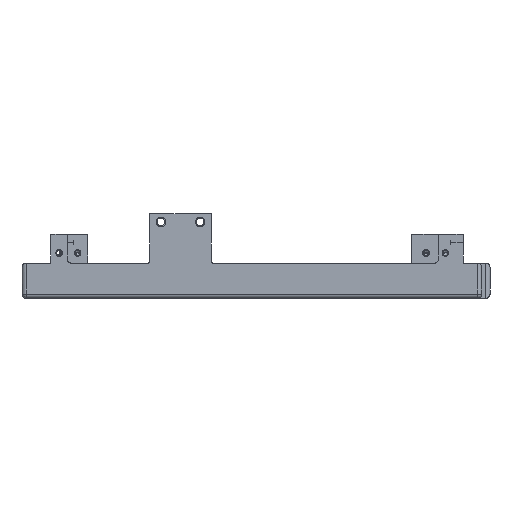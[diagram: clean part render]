
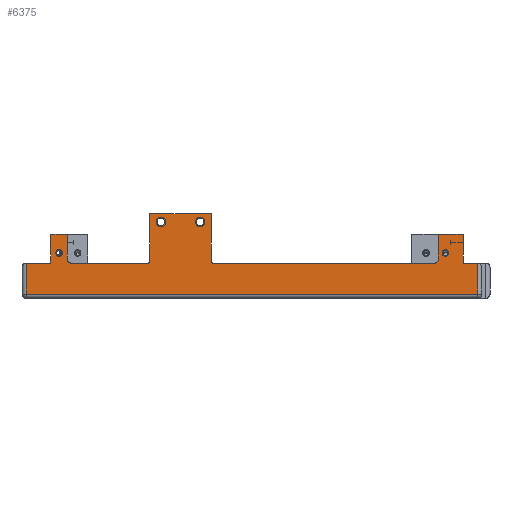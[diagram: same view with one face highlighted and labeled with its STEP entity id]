
A CAD part, left-side view. The second image highlights one B-rep face of the part: STEP entity #6375.
In plain terms, the highlighted planar face has unit normal (-1, 0, 0).
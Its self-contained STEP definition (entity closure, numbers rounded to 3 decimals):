
#1096=DIRECTION('',(0.,-1.,0.));
#1097=VECTOR('',#1096,18.5);
#1098=CARTESIAN_POINT('',(-50.,44.75,8.5));
#1099=LINE('',#1098,#1097);
#1120=DIRECTION('',(0.,-1.,0.));
#1121=VECTOR('',#1120,6.);
#1122=CARTESIAN_POINT('',(-50.,55.75,8.5));
#1123=LINE('',#1122,#1121);
#1152=DIRECTION('',(0.,-1.,0.));
#1153=VECTOR('',#1152,3.5);
#1154=CARTESIAN_POINT('',(-50.,-50.25,8.5));
#1155=LINE('',#1154,#1153);
#1168=DIRECTION('',(0.,-1.,0.));
#1169=VECTOR('',#1168,53.6);
#1170=CARTESIAN_POINT('',(-50.,10.35,8.5));
#1171=LINE('',#1170,#1169);
#1503=DIRECTION('',(0.,-1.,0.));
#1504=VECTOR('',#1503,4.);
#1505=CARTESIAN_POINT('',(-50.,49.75,15.5));
#1506=LINE('',#1505,#1504);
#1563=DIRECTION('',(0.,-1.,0.));
#1564=VECTOR('',#1563,6.);
#1565=CARTESIAN_POINT('',(-50.,-44.25,15.5));
#1566=LINE('',#1565,#1564);
#1615=CARTESIAN_POINT('',(-50.,47.75,11.));
#1616=DIRECTION('',(-1.,0.,0.));
#1617=DIRECTION('',(0.,1.,0.));
#1618=AXIS2_PLACEMENT_3D('',#1615,#1616,#1617);
#1620=CARTESIAN_POINT('',(-50.,47.75,11.));
#1621=DIRECTION('',(-1.,0.,0.));
#1622=DIRECTION('',(0.,-1.,0.));
#1623=AXIS2_PLACEMENT_3D('',#1620,#1621,#1622);
#1625=CARTESIAN_POINT('',(-50.,-45.95,11.));
#1626=DIRECTION('',(-1.,0.,0.));
#1627=DIRECTION('',(0.,1.,0.));
#1628=AXIS2_PLACEMENT_3D('',#1625,#1626,#1627);
#1630=CARTESIAN_POINT('',(-50.,-45.95,11.));
#1631=DIRECTION('',(-1.,0.,0.));
#1632=DIRECTION('',(0.,-1.,0.));
#1633=AXIS2_PLACEMENT_3D('',#1630,#1631,#1632);
#1635=CARTESIAN_POINT('',(-50.,23.05,18.5));
#1636=DIRECTION('',(-1.,0.,0.));
#1637=DIRECTION('',(0.,1.,0.));
#1638=AXIS2_PLACEMENT_3D('',#1635,#1636,#1637);
#1640=CARTESIAN_POINT('',(-50.,23.05,18.5));
#1641=DIRECTION('',(-1.,0.,0.));
#1642=DIRECTION('',(0.,-1.,0.));
#1643=AXIS2_PLACEMENT_3D('',#1640,#1641,#1642);
#1645=CARTESIAN_POINT('',(-50.,13.55,18.5));
#1646=DIRECTION('',(-1.,0.,0.));
#1647=DIRECTION('',(0.,1.,0.));
#1648=AXIS2_PLACEMENT_3D('',#1645,#1646,#1647);
#1650=CARTESIAN_POINT('',(-50.,13.55,18.5));
#1651=DIRECTION('',(-1.,0.,0.));
#1652=DIRECTION('',(0.,-1.,0.));
#1653=AXIS2_PLACEMENT_3D('',#1650,#1651,#1652);
#1655=DIRECTION('',(0.,0.,1.));
#1656=VECTOR('',#1655,6.);
#1657=CARTESIAN_POINT('',(-50.,-44.25,9.5));
#1658=LINE('',#1657,#1656);
#1659=DIRECTION('',(0.,0.,1.));
#1660=VECTOR('',#1659,7.5);
#1661=CARTESIAN_POINT('',(-50.,-53.75,1.));
#1662=LINE('',#1661,#1660);
#1663=DIRECTION('',(0.,-1.,0.));
#1664=VECTOR('',#1663,109.5);
#1665=CARTESIAN_POINT('',(-50.,55.75,1.));
#1666=LINE('',#1665,#1664);
#1667=DIRECTION('',(0.,0.,-1.));
#1668=VECTOR('',#1667,7.5);
#1669=CARTESIAN_POINT('',(-50.,55.75,8.5));
#1670=LINE('',#1669,#1668);
#1671=DIRECTION('',(0.,0.,1.));
#1672=VECTOR('',#1671,7.);
#1673=CARTESIAN_POINT('',(-50.,49.75,8.5));
#1674=LINE('',#1673,#1672);
#1738=CARTESIAN_POINT('',(-50.,44.75,9.5));
#1739=DIRECTION('',(1.,0.,0.));
#1740=DIRECTION('',(0.,0.,-1.));
#1741=AXIS2_PLACEMENT_3D('',#1738,#1739,#1740);
#1747=DIRECTION('',(0.,0.,1.));
#1748=VECTOR('',#1747,6.);
#1749=CARTESIAN_POINT('',(-50.,45.75,9.5));
#1750=LINE('',#1749,#1748);
#1865=CARTESIAN_POINT('',(-50.,10.35,9.));
#1866=DIRECTION('',(1.,0.,0.));
#1867=DIRECTION('',(0.,0.,-1.));
#1868=AXIS2_PLACEMENT_3D('',#1865,#1866,#1867);
#1879=DIRECTION('',(0.,0.,1.));
#1880=VECTOR('',#1879,11.5);
#1881=CARTESIAN_POINT('',(-50.,10.85,9.));
#1882=LINE('',#1881,#1880);
#1883=DIRECTION('',(0.,-1.,0.));
#1884=VECTOR('',#1883,14.9);
#1885=CARTESIAN_POINT('',(-50.,25.75,20.5));
#1886=LINE('',#1885,#1884);
#1923=DIRECTION('',(0.,0.,-1.));
#1924=VECTOR('',#1923,11.5);
#1925=CARTESIAN_POINT('',(-50.,25.75,20.5));
#1926=LINE('',#1925,#1924);
#1932=CARTESIAN_POINT('',(-50.,26.25,9.));
#1933=DIRECTION('',(1.,0.,0.));
#1934=DIRECTION('',(0.,-1.,0.));
#1935=AXIS2_PLACEMENT_3D('',#1932,#1933,#1934);
#2962=DIRECTION('',(0.,0.,1.));
#2963=VECTOR('',#2962,7.);
#2964=CARTESIAN_POINT('',(-50.,-50.25,8.5));
#2965=LINE('',#2964,#2963);
#3045=CARTESIAN_POINT('',(-50.,-43.25,9.5));
#3046=DIRECTION('',(1.,0.,0.));
#3047=DIRECTION('',(0.,-1.,0.));
#3048=AXIS2_PLACEMENT_3D('',#3045,#3046,#3047);
#3778=CARTESIAN_POINT('',(-50.,-44.25,15.5));
#3779=VERTEX_POINT('',#3778);
#3780=CARTESIAN_POINT('',(-50.,-50.25,15.5));
#3781=VERTEX_POINT('',#3780);
#3800=CARTESIAN_POINT('',(-50.,49.75,15.5));
#3801=CARTESIAN_POINT('',(-50.,45.75,15.5));
#3802=VERTEX_POINT('',#3800);
#3803=VERTEX_POINT('',#3801);
#3830=CARTESIAN_POINT('',(-50.,49.75,8.5));
#3831=VERTEX_POINT('',#3830);
#3898=CARTESIAN_POINT('',(-50.,48.375,11.));
#3899=VERTEX_POINT('',#3898);
#3900=CARTESIAN_POINT('',(-50.,47.125,11.));
#3901=VERTEX_POINT('',#3900);
#3928=CARTESIAN_POINT('',(-50.,-45.325,11.));
#3929=VERTEX_POINT('',#3928);
#3930=CARTESIAN_POINT('',(-50.,-46.575,11.));
#3931=VERTEX_POINT('',#3930);
#4025=CARTESIAN_POINT('',(-50.,55.75,8.5));
#4027=VERTEX_POINT('',#4025);
#4059=CARTESIAN_POINT('',(-50.,55.75,1.));
#4061=VERTEX_POINT('',#4059);
#4199=CARTESIAN_POINT('',(-50.,-43.25,8.5));
#4201=VERTEX_POINT('',#4199);
#4204=CARTESIAN_POINT('',(-50.,-44.25,9.5));
#4205=VERTEX_POINT('',#4204);
#4210=CARTESIAN_POINT('',(-50.,44.75,8.5));
#4211=VERTEX_POINT('',#4210);
#4212=CARTESIAN_POINT('',(-50.,45.75,9.5));
#4213=VERTEX_POINT('',#4212);
#4414=CARTESIAN_POINT('',(-50.,-53.75,8.5));
#4416=VERTEX_POINT('',#4414);
#4424=CARTESIAN_POINT('',(-50.,-53.75,1.));
#4425=VERTEX_POINT('',#4424);
#4428=CARTESIAN_POINT('',(-50.,-50.25,8.5));
#4429=VERTEX_POINT('',#4428);
#4432=CARTESIAN_POINT('',(-50.,25.75,20.5));
#4433=CARTESIAN_POINT('',(-50.,10.85,20.5));
#4434=VERTEX_POINT('',#4432);
#4435=VERTEX_POINT('',#4433);
#4440=CARTESIAN_POINT('',(-50.,24.,18.5));
#4441=CARTESIAN_POINT('',(-50.,22.1,18.5));
#4442=VERTEX_POINT('',#4440);
#4443=VERTEX_POINT('',#4441);
#4448=CARTESIAN_POINT('',(-50.,14.5,18.5));
#4449=CARTESIAN_POINT('',(-50.,12.6,18.5));
#4450=VERTEX_POINT('',#4448);
#4451=VERTEX_POINT('',#4449);
#4557=CARTESIAN_POINT('',(-50.,26.25,8.5));
#4559=VERTEX_POINT('',#4557);
#4561=CARTESIAN_POINT('',(-50.,25.75,9.));
#4563=VERTEX_POINT('',#4561);
#4564=CARTESIAN_POINT('',(-50.,10.35,8.5));
#4566=VERTEX_POINT('',#4564);
#4568=CARTESIAN_POINT('',(-50.,10.85,9.));
#4570=VERTEX_POINT('',#4568);
#6310=CARTESIAN_POINT('',(-50.,56.75,0.));
#6311=DIRECTION('',(-1.,0.,0.));
#6312=DIRECTION('',(0.,-1.,0.));
#6313=AXIS2_PLACEMENT_3D('',#6310,#6311,#6312);
#6314=PLANE('',#6313);
#6316=ORIENTED_EDGE('',*,*,#6315,.F.);
#6318=ORIENTED_EDGE('',*,*,#6317,.F.);
#6319=ORIENTED_EDGE('',*,*,#5773,.T.);
#6321=ORIENTED_EDGE('',*,*,#6320,.F.);
#6323=ORIENTED_EDGE('',*,*,#6322,.T.);
#6324=ORIENTED_EDGE('',*,*,#6272,.T.);
#6326=ORIENTED_EDGE('',*,*,#6325,.F.);
#6327=ORIENTED_EDGE('',*,*,#5753,.T.);
#6329=ORIENTED_EDGE('',*,*,#6328,.F.);
#6331=ORIENTED_EDGE('',*,*,#6330,.F.);
#6333=ORIENTED_EDGE('',*,*,#6332,.F.);
#6334=ORIENTED_EDGE('',*,*,#5724,.T.);
#6336=ORIENTED_EDGE('',*,*,#6335,.T.);
#6337=ORIENTED_EDGE('',*,*,#6227,.T.);
#6339=ORIENTED_EDGE('',*,*,#6338,.F.);
#6341=ORIENTED_EDGE('',*,*,#6340,.F.);
#6342=ORIENTED_EDGE('',*,*,#5712,.T.);
#6344=ORIENTED_EDGE('',*,*,#6343,.F.);
#6346=ORIENTED_EDGE('',*,*,#6345,.F.);
#6348=ORIENTED_EDGE('',*,*,#6347,.T.);
#6349=EDGE_LOOP('',(#6316,#6318,#6319,#6321,#6323,#6324,#6326,#6327,#6329,#6331,
#6333,#6334,#6336,#6337,#6339,#6341,#6342,#6344,#6346,#6348));
#6350=FACE_OUTER_BOUND('',#6349,.F.);
#6352=ORIENTED_EDGE('',*,*,#6351,.T.);
#6354=ORIENTED_EDGE('',*,*,#6353,.T.);
#6355=EDGE_LOOP('',(#6352,#6354));
#6356=FACE_BOUND('',#6355,.F.);
#6358=ORIENTED_EDGE('',*,*,#6357,.T.);
#6360=ORIENTED_EDGE('',*,*,#6359,.T.);
#6361=EDGE_LOOP('',(#6358,#6360));
#6362=FACE_BOUND('',#6361,.F.);
#6364=ORIENTED_EDGE('',*,*,#6363,.T.);
#6366=ORIENTED_EDGE('',*,*,#6365,.T.);
#6367=EDGE_LOOP('',(#6364,#6366));
#6368=FACE_BOUND('',#6367,.F.);
#6370=ORIENTED_EDGE('',*,*,#6369,.T.);
#6372=ORIENTED_EDGE('',*,*,#6371,.T.);
#6373=EDGE_LOOP('',(#6370,#6372));
#6374=FACE_BOUND('',#6373,.F.);
#6375=ADVANCED_FACE('',(#6350,#6356,#6362,#6368,#6374),#6314,.T.);
#1619=CIRCLE('',#1618,0.625);
#1624=CIRCLE('',#1623,0.625);
#1629=CIRCLE('',#1628,0.625);
#1634=CIRCLE('',#1633,0.625);
#1639=CIRCLE('',#1638,0.95);
#1644=CIRCLE('',#1643,0.95);
#1649=CIRCLE('',#1648,0.95);
#1654=CIRCLE('',#1653,0.95);
#1742=CIRCLE('',#1741,1.);
#1869=CIRCLE('',#1868,0.5);
#1936=CIRCLE('',#1935,0.5);
#3049=CIRCLE('',#3048,1.);
#5712=EDGE_CURVE('',#4211,#4559,#1099,.T.);
#5724=EDGE_CURVE('',#4027,#3831,#1123,.T.);
#5753=EDGE_CURVE('',#4429,#4416,#1155,.T.);
#5773=EDGE_CURVE('',#4566,#4201,#1171,.T.);
#6227=EDGE_CURVE('',#3802,#3803,#1506,.T.);
#6272=EDGE_CURVE('',#3779,#3781,#1566,.T.);
#6315=EDGE_CURVE('',#4570,#4435,#1882,.T.);
#6317=EDGE_CURVE('',#4566,#4570,#1869,.T.);
#6320=EDGE_CURVE('',#4205,#4201,#3049,.T.);
#6322=EDGE_CURVE('',#4205,#3779,#1658,.T.);
#6325=EDGE_CURVE('',#4429,#3781,#2965,.T.);
#6328=EDGE_CURVE('',#4425,#4416,#1662,.T.);
#6330=EDGE_CURVE('',#4061,#4425,#1666,.T.);
#6332=EDGE_CURVE('',#4027,#4061,#1670,.T.);
#6335=EDGE_CURVE('',#3831,#3802,#1674,.T.);
#6338=EDGE_CURVE('',#4213,#3803,#1750,.T.);
#6340=EDGE_CURVE('',#4211,#4213,#1742,.T.);
#6343=EDGE_CURVE('',#4563,#4559,#1936,.T.);
#6345=EDGE_CURVE('',#4434,#4563,#1926,.T.);
#6347=EDGE_CURVE('',#4434,#4435,#1886,.T.);
#6351=EDGE_CURVE('',#3929,#3931,#1629,.T.);
#6353=EDGE_CURVE('',#3931,#3929,#1634,.T.);
#6357=EDGE_CURVE('',#4442,#4443,#1639,.T.);
#6359=EDGE_CURVE('',#4443,#4442,#1644,.T.);
#6363=EDGE_CURVE('',#4450,#4451,#1649,.T.);
#6365=EDGE_CURVE('',#4451,#4450,#1654,.T.);
#6369=EDGE_CURVE('',#3899,#3901,#1619,.T.);
#6371=EDGE_CURVE('',#3901,#3899,#1624,.T.);
